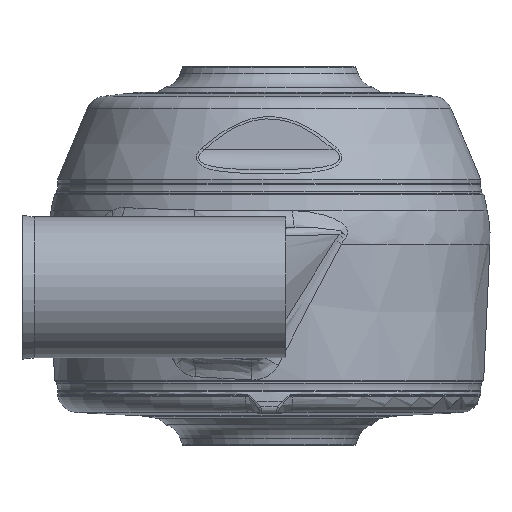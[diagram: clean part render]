
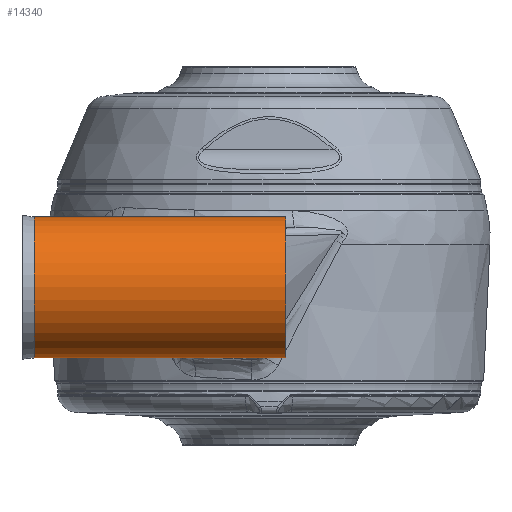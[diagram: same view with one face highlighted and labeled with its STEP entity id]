
A CAD part, front view. The second image highlights one B-rep face of the part: STEP entity #14340.
In plain terms, the highlighted cylindrical face has radius 10.5 mm (diameter 21 mm), a partial arc.
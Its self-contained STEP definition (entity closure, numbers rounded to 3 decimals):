
#546 = DIRECTION ( 'NONE',  ( 0., 0., 1. ) ) ;
#723 = EDGE_CURVE ( 'NONE', #5345, #14596, #14301, .T. ) ;
#1260 = DIRECTION ( 'NONE',  ( 1., 0., 0. ) ) ;
#1471 = ORIENTED_EDGE ( 'NONE', *, *, #12017, .T. ) ;
#1521 = CARTESIAN_POINT ( 'NONE',  ( -36.5, -52.5, 10.5 ) ) ;
#2042 = CYLINDRICAL_SURFACE ( 'NONE', #13959, 10.5 ) ;
#2619 = ORIENTED_EDGE ( 'NONE', *, *, #12847, .F. ) ;
#3124 = CARTESIAN_POINT ( 'NONE',  ( 2.5, -52.5, -10.5 ) ) ;
#3343 = ORIENTED_EDGE ( 'NONE', *, *, #8698, .T. ) ;
#3974 = VERTEX_POINT ( 'NONE', #3124 ) ;
#4661 = DIRECTION ( 'NONE',  ( 1., 0., 0. ) ) ;
#4945 = DIRECTION ( 'NONE',  ( 0., 0., 1. ) ) ;
#5345 = VERTEX_POINT ( 'NONE', #7122 ) ;
#5359 = CARTESIAN_POINT ( 'NONE',  ( -35., -52.5, -10.5 ) ) ;
#5965 = VECTOR ( 'NONE', #6750, 1000. ) ;
#6478 = DIRECTION ( 'NONE',  ( 0., 0., -1. ) ) ;
#6660 = LINE ( 'NONE', #1521, #5965 ) ;
#6723 = CIRCLE ( 'NONE', #15801, 10.5 ) ;
#6750 = DIRECTION ( 'NONE',  ( 1., 0., 0. ) ) ;
#6789 = VERTEX_POINT ( 'NONE', #10338 ) ;
#7060 = CARTESIAN_POINT ( 'NONE',  ( 2.5, -52.5, 0. ) ) ;
#7122 = CARTESIAN_POINT ( 'NONE',  ( -35., -52.5, 10.5 ) ) ;
#8454 = CARTESIAN_POINT ( 'NONE',  ( -36.5, -52.5, -10.5 ) ) ;
#8698 = EDGE_CURVE ( 'NONE', #14596, #3974, #11218, .T. ) ;
#8831 = FACE_OUTER_BOUND ( 'NONE', #10546, .T. ) ;
#8871 = ORIENTED_EDGE ( 'NONE', *, *, #723, .T. ) ;
#10338 = CARTESIAN_POINT ( 'NONE',  ( 2.5, -52.5, 10.5 ) ) ;
#10546 = EDGE_LOOP ( 'NONE', ( #8871, #3343, #1471, #2619 ) ) ;
#11218 = LINE ( 'NONE', #8454, #16388 ) ;
#11423 = DIRECTION ( 'NONE',  ( 1., 0., 0. ) ) ;
#11509 = CARTESIAN_POINT ( 'NONE',  ( -36.5, -52.5, 0. ) ) ;
#12017 = EDGE_CURVE ( 'NONE', #3974, #6789, #6723, .T. ) ;
#12331 = DIRECTION ( 'NONE',  ( -1., 0., 0. ) ) ;
#12847 = EDGE_CURVE ( 'NONE', #5345, #6789, #6660, .T. ) ;
#13026 = CARTESIAN_POINT ( 'NONE',  ( -35., -52.5, 0. ) ) ;
#13490 = AXIS2_PLACEMENT_3D ( 'NONE', #13026, #1260, #6478 ) ;
#13959 = AXIS2_PLACEMENT_3D ( 'NONE', #11509, #11423, #4945 ) ;
#14301 = CIRCLE ( 'NONE', #13490, 10.5 ) ;
#14340 = ADVANCED_FACE ( 'NONE', ( #8831 ), #2042, .T. ) ;
#14596 = VERTEX_POINT ( 'NONE', #5359 ) ;
#15801 = AXIS2_PLACEMENT_3D ( 'NONE', #7060, #12331, #546 ) ;
#16388 = VECTOR ( 'NONE', #4661, 1000. ) ;
